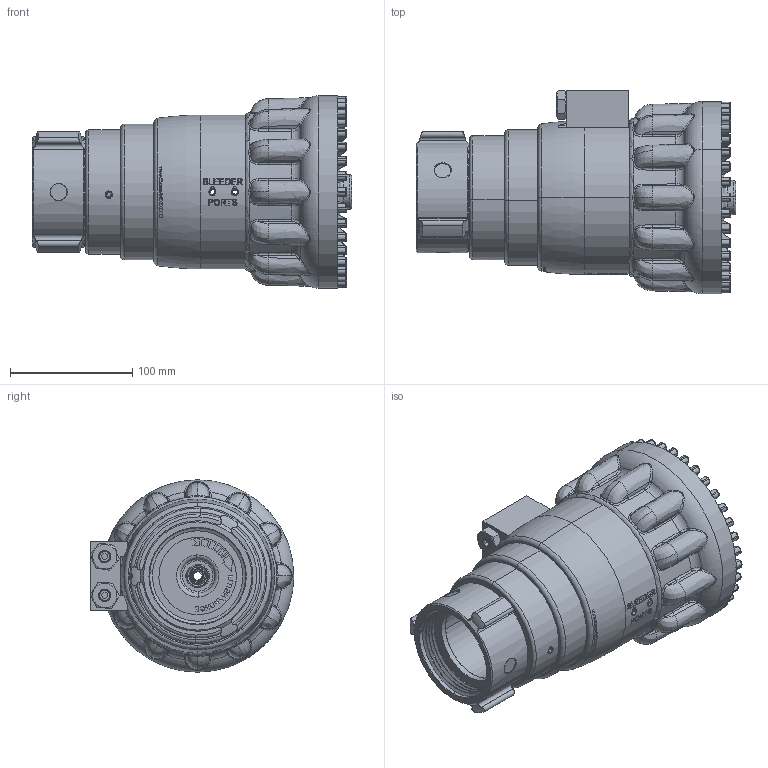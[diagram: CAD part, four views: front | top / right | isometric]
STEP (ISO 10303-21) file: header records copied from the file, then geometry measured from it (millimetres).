
FILE_DESCRIPTION (( 'STEP AP203' ), '1' );
FILE_NAME ('M-H1000-NJ.STEP', '2015-07-16T15:11:02', ( '' ), ( '' ), 'SwSTEP 2.0', 'SolidWorks 2015', '' );
FILE_SCHEMA (( 'CONFIG_CONTROL_DESIGN' ));
Products named in the file (1): M-H1000-NJ
Bounding box: 261.38 x 166.71 x 157.48 mm (x, y, z)
Surface area: 228038.9 mm2 (no closed solid volume)
Topology: 0 solids, 50 shells, 1782 faces, 5832 edges, 3954 vertices
Faces by surface type: bspline 626, cylinder 547, plane 379, torus 145, sphere 44, cone 41
Entity records: 107610 total; most frequent: CARTESIAN_POINT 64204, ORIENTED_EDGE 9677, DIRECTION 7120, EDGE_CURVE 5809, VERTEX_POINT 3954, AXIS2_PLACEMENT_3D 2696, B_SPLINE_CURVE_WITH_KNOTS 2286, EDGE_LOOP 1882
